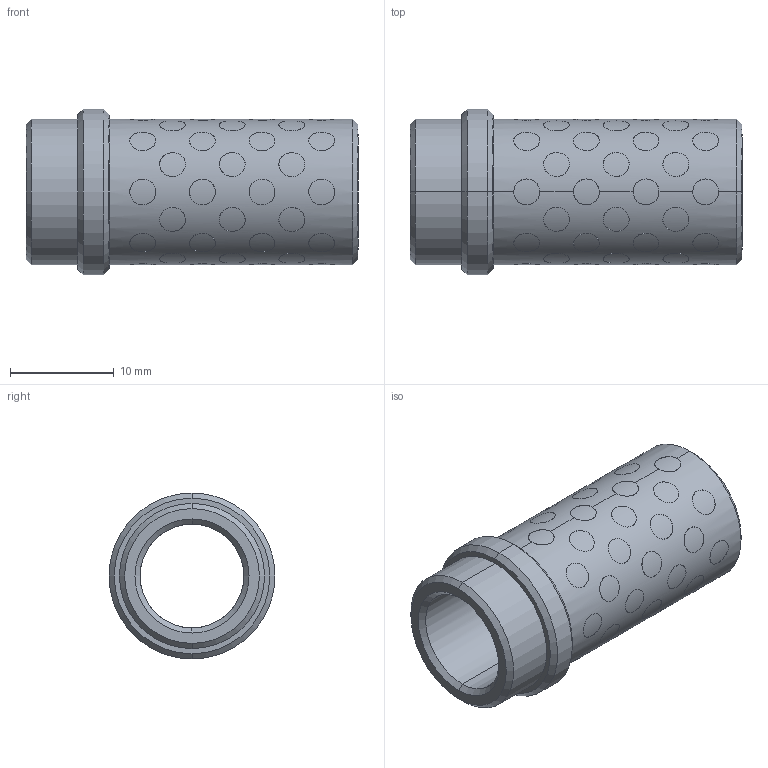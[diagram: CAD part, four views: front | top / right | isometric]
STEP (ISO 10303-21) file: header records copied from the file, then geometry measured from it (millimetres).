
FILE_DESCRIPTION((''),'2;1');
FILE_NAME('G31210027','2018-01-25T',('MANU'),(''),'PRO/ENGINEER BY PARAMETRIC TECHNOLOGY CORPORATION, 2012130','PRO/ENGINEER BY PARAMETRIC TECHNOLOGY CORPORATION, 2012130','');
FILE_SCHEMA(('CONFIG_CONTROL_DESIGN'));
Length unit declared in the file: millimetre
Products named in the file (1): G31210027
Bounding box: 32 x 16 x 16 mm (x, y, z)
Volume: 2516.3 mm3; surface area: 4369.7 mm2
Topology: 57 solids, 57 shells, 360 faces, 768 edges, 508 vertices
Faces by surface type: cylinder 344, cone 12, plane 4
Entity records: 15446 total; most frequent: CARTESIAN_POINT 8384, ORIENTED_EDGE 1536, DIRECTION 1036, EDGE_CURVE 768, VERTEX_POINT 508, B_SPLINE_CURVE_WITH_KNOTS 480, EDGE_LOOP 460, AXIS2_PLACEMENT_3D 388
